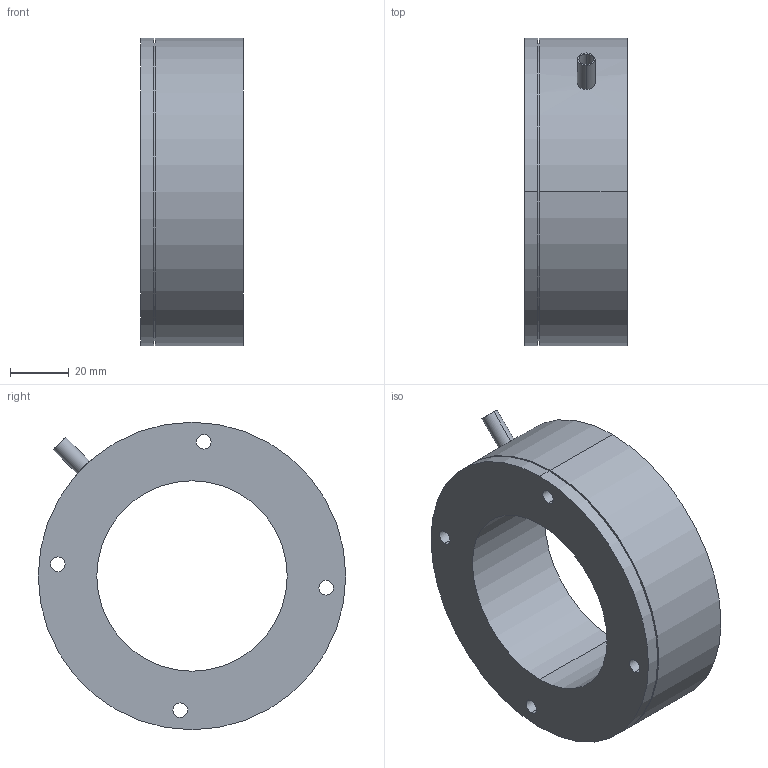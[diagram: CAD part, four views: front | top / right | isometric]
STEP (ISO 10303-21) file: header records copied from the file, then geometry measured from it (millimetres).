
FILE_DESCRIPTION (( 'STEP AP203' ), '1' );
FILE_NAME ('P77A.K65三维外形图-22.03.17.STEP', '2022-03-17T06:09:00', ( '' ), ( '' ), 'SwSTEP 2.0', 'SolidWorks 2016', '' );
FILE_SCHEMA (( 'CONFIG_CONTROL_DESIGN' ));
Length unit declared in the file: millimetre
Products named in the file (1): P77A.K65三维外形图-22.03.17
Bounding box: 35 x 105 x 105 mm (x, y, z)
Volume: 177188 mm3; surface area: 35008.5 mm2
Topology: 1 solids, 1 shells, 54 faces, 124 edges, 76 vertices
Faces by surface type: cylinder 37, plane 9, cone 8
Entity records: 1711 total; most frequent: CARTESIAN_POINT 373, DIRECTION 290, ORIENTED_EDGE 232, AXIS2_PLACEMENT_3D 123, EDGE_CURVE 116, VERTEX_POINT 76, EDGE_LOOP 76, CIRCLE 68
